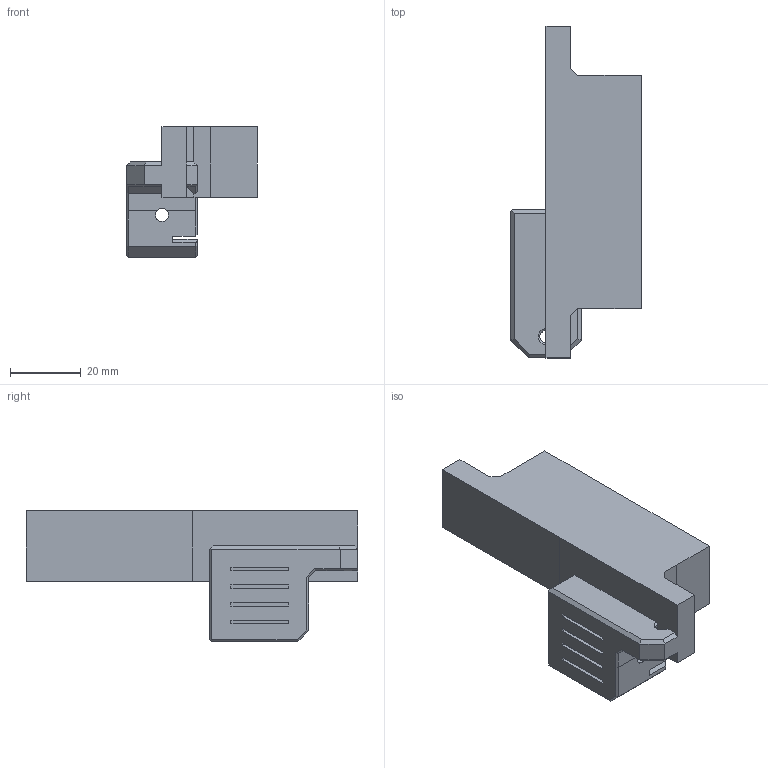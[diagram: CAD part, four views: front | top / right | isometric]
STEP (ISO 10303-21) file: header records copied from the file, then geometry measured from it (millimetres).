
FILE_DESCRIPTION(('CATIA V5 STEP Exchange'),'2;1');
FILE_NAME('D:\_이전 노트북\Cremaker모델링\Cremaker_profile-Metal(5차)-(Final)\(1.8)bed-belt-block.stp','2020-10-23T05:15:37+00:00',('none'),('none'),'CATIA Version 5 Release 20 GA (IN-10)','CATIA V5 STEP AP203','none');
FILE_SCHEMA(('CONFIG_CONTROL_DESIGN'));
Length unit declared in the file: millimetre
Products named in the file (1): (1.8)bed-belt-block
Bounding box: 37 x 94 x 37 mm (x, y, z)
Volume: 52013.5 mm3; surface area: 12419.9 mm2
Topology: 1 solids, 1 shells, 116 faces, 312 edges, 200 vertices
Faces by surface type: plane 92, extrusion 14, cylinder 8, cone 2
Entity records: 4440 total; most frequent: CARTESIAN_POINT 1721, ORIENTED_EDGE 624, DIRECTION 415, EDGE_CURVE 312, VECTOR 245, LINE 231, VERTEX_POINT 200, EDGE_LOOP 124
